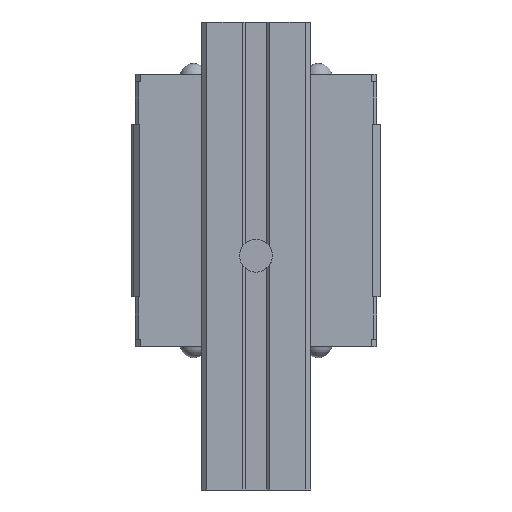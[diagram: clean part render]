
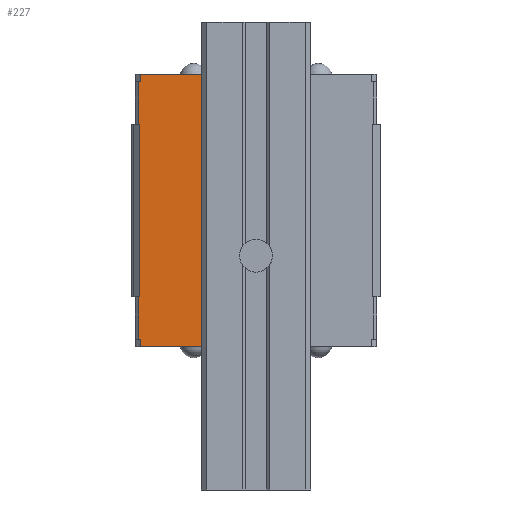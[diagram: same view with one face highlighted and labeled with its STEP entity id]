
A CAD part, front view. The second image highlights one B-rep face of the part: STEP entity #227.
In plain terms, the highlighted planar face has unit normal (0, -1, 0).
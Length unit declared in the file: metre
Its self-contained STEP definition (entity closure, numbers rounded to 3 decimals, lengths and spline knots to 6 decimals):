
#227 = ADVANCED_FACE( '', ( #574 ), #575, .F. );
#574 = FACE_OUTER_BOUND( '', #1080, .T. );
#575 = PLANE( '', #1081 );
#1080 = EDGE_LOOP( '', ( #1670, #1671, #1672, #1673, #1674, #1675, #1676, #1677, #1678, #1679, #1680, #1681 ) );
#1081 = AXIS2_PLACEMENT_3D( '', #1682, #1683, #1684 );
#1670 = ORIENTED_EDGE( '', *, *, #2897, .F. );
#1671 = ORIENTED_EDGE( '', *, *, #2898, .F. );
#1672 = ORIENTED_EDGE( '', *, *, #2899, .F. );
#1673 = ORIENTED_EDGE( '', *, *, #2900, .F. );
#1674 = ORIENTED_EDGE( '', *, *, #2868, .T. );
#1675 = ORIENTED_EDGE( '', *, *, #2901, .T. );
#1676 = ORIENTED_EDGE( '', *, *, #2902, .F. );
#1677 = ORIENTED_EDGE( '', *, *, #2903, .T. );
#1678 = ORIENTED_EDGE( '', *, *, #2904, .F. );
#1679 = ORIENTED_EDGE( '', *, *, #2905, .T. );
#1680 = ORIENTED_EDGE( '', *, *, #2906, .T. );
#1681 = ORIENTED_EDGE( '', *, *, #2907, .F. );
#1682 = CARTESIAN_POINT( '', ( 0.0159, 0.0045, -0.059 ) );
#1683 = DIRECTION( '', ( 0., 1., 0. ) );
#1684 = DIRECTION( '', ( 1., 0., 0. ) );
#2868 = EDGE_CURVE( '', #3416, #3414, #3417, .T. );
#2897 = EDGE_CURVE( '', #3467, #3468, #3469, .T. );
#2898 = EDGE_CURVE( '', #3470, #3467, #3471, .T. );
#2899 = EDGE_CURVE( '', #3472, #3470, #3473, .T. );
#2900 = EDGE_CURVE( '', #3416, #3472, #3474, .T. );
#2901 = EDGE_CURVE( '', #3414, #3475, #3476, .T. );
#2902 = EDGE_CURVE( '', #3477, #3475, #3478, .T. );
#2903 = EDGE_CURVE( '', #3477, #3479, #3480, .T. );
#2904 = EDGE_CURVE( '', #3481, #3479, #3482, .T. );
#2905 = EDGE_CURVE( '', #3481, #3483, #3484, .T. );
#2906 = EDGE_CURVE( '', #3483, #3485, #3486, .T. );
#2907 = EDGE_CURVE( '', #3468, #3485, #3487, .T. );
#3414 = VERTEX_POINT( '', #4193 );
#3416 = VERTEX_POINT( '', #4196 );
#3417 = LINE( '', #4197, #4198 );
#3467 = VERTEX_POINT( '', #4267 );
#3468 = VERTEX_POINT( '', #4268 );
#3469 = LINE( '', #4269, #4270 );
#3470 = VERTEX_POINT( '', #4271 );
#3471 = LINE( '', #4272, #4273 );
#3472 = VERTEX_POINT( '', #4274 );
#3473 = LINE( '', #4275, #4276 );
#3474 = LINE( '', #4277, #4278 );
#3475 = VERTEX_POINT( '', #4279 );
#3476 = LINE( '', #4280, #4281 );
#3477 = VERTEX_POINT( '', #4282 );
#3478 = LINE( '', #4283, #4284 );
#3479 = VERTEX_POINT( '', #4285 );
#3480 = LINE( '', #4286, #4287 );
#3481 = VERTEX_POINT( '', #4288 );
#3482 = LINE( '', #4289, #4290 );
#3483 = VERTEX_POINT( '', #4291 );
#3484 = LINE( '', #4292, #4293 );
#3485 = VERTEX_POINT( '', #4294 );
#3486 = LINE( '', #4295, #4296 );
#3487 = LINE( '', #4297, #4298 );
#4193 = CARTESIAN_POINT( '', ( -0.0158, 0.0045, -0.04435 ) );
#4196 = CARTESIAN_POINT( '', ( -0.0158, 0.0045, -0.04335 ) );
#4197 = CARTESIAN_POINT( '', ( -0.0158, 0.0045, -0.04335 ) );
#4198 = VECTOR( '', #5132, 1. );
#4267 = CARTESIAN_POINT( '', ( -0.0159, 0.0045, -0.0375 ) );
#4268 = CARTESIAN_POINT( '', ( -0.0159, 0.0045, -0.014 ) );
#4269 = CARTESIAN_POINT( '', ( -0.0159, 0.0045, -0.059 ) );
#4270 = VECTOR( '', #5161, 1. );
#4271 = CARTESIAN_POINT( '', ( -0.016, 0.0045, -0.0375 ) );
#4272 = CARTESIAN_POINT( '', ( 0.0159, 0.0045, -0.0375 ) );
#4273 = VECTOR( '', #5162, 1. );
#4274 = CARTESIAN_POINT( '', ( -0.016, 0.0045, -0.04335 ) );
#4275 = CARTESIAN_POINT( '', ( -0.016, 0.0045, -0.04335 ) );
#4276 = VECTOR( '', #5163, 1. );
#4277 = CARTESIAN_POINT( '', ( 0.016, 0.0045, -0.04335 ) );
#4278 = VECTOR( '', #5164, 1. );
#4279 = CARTESIAN_POINT( '', ( -0.005941, 0.0045, -0.04435 ) );
#4280 = CARTESIAN_POINT( '', ( -0.0158, 0.0045, -0.04435 ) );
#4281 = VECTOR( '', #5165, 1. );
#4282 = CARTESIAN_POINT( '', ( -0.005941, 0.0045, -0.00715 ) );
#4283 = CARTESIAN_POINT( '', ( -0.005941, 0.0045, -0.059 ) );
#4284 = VECTOR( '', #5166, 1. );
#4285 = CARTESIAN_POINT( '', ( -0.0158, 0.0045, -0.00715 ) );
#4286 = CARTESIAN_POINT( '', ( 0.0158, 0.0045, -0.00715 ) );
#4287 = VECTOR( '', #5167, 1. );
#4288 = CARTESIAN_POINT( '', ( -0.0158, 0.0045, -0.00815 ) );
#4289 = CARTESIAN_POINT( '', ( -0.0158, 0.0045, -0.00815 ) );
#4290 = VECTOR( '', #5168, 1. );
#4291 = CARTESIAN_POINT( '', ( -0.016, 0.0045, -0.00815 ) );
#4292 = CARTESIAN_POINT( '', ( 0.016, 0.0045, -0.00815 ) );
#4293 = VECTOR( '', #5169, 1. );
#4294 = CARTESIAN_POINT( '', ( -0.016, 0.0045, -0.014 ) );
#4295 = CARTESIAN_POINT( '', ( -0.016, 0.0045, -0.00815 ) );
#4296 = VECTOR( '', #5170, 1. );
#4297 = CARTESIAN_POINT( '', ( 0.016, 0.0045, -0.014 ) );
#4298 = VECTOR( '', #5171, 1. );
#5132 = DIRECTION( '', ( 0., 0., -1. ) );
#5161 = DIRECTION( '', ( 0., 0., 1. ) );
#5162 = DIRECTION( '', ( 1., 0., 0. ) );
#5163 = DIRECTION( '', ( 0., 0., 1. ) );
#5164 = DIRECTION( '', ( -1., 0., 0. ) );
#5165 = DIRECTION( '', ( 1., 0., 0. ) );
#5166 = DIRECTION( '', ( 0., 0., -1. ) );
#5167 = DIRECTION( '', ( -1., 0., 0. ) );
#5168 = DIRECTION( '', ( 0., 0., 1. ) );
#5169 = DIRECTION( '', ( -1., 0., 0. ) );
#5170 = DIRECTION( '', ( 0., 0., -1. ) );
#5171 = DIRECTION( '', ( -1., 0., 0. ) );
